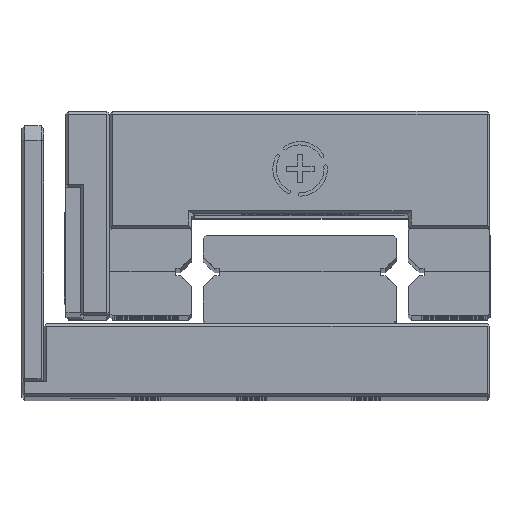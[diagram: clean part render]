
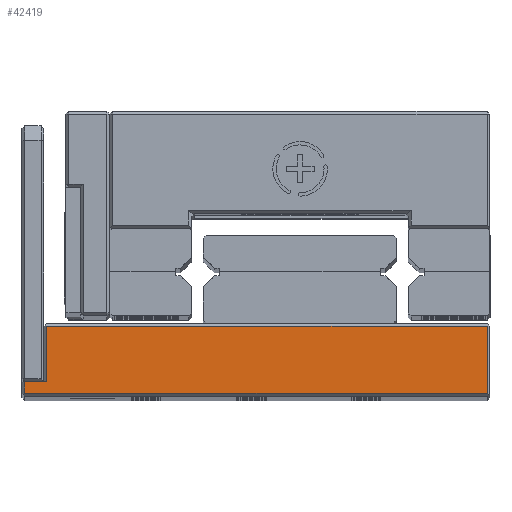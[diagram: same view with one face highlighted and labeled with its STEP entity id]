
A CAD part, top view. The second image highlights one B-rep face of the part: STEP entity #42419.
In plain terms, the highlighted planar face has unit normal (0, 0, 1).
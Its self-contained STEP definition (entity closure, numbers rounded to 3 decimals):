
#324 = VECTOR ( 'NONE', #1304, 1000. ) ;
#1304 = DIRECTION ( 'NONE',  ( 0., -1., 0. ) ) ;
#2812 = ORIENTED_EDGE ( 'NONE', *, *, #30871, .T. ) ;
#4610 = LINE ( 'NONE', #11295, #18612 ) ;
#6292 = DIRECTION ( 'NONE',  ( 1., 0., 0. ) ) ;
#8009 = VECTOR ( 'NONE', #72707, 1000. ) ;
#8429 = CARTESIAN_POINT ( 'NONE',  ( -25.8, -7., 180. ) ) ;
#10507 = VERTEX_POINT ( 'NONE', #57451 ) ;
#11295 = CARTESIAN_POINT ( 'NONE',  ( -25.8, -3., 180. ) ) ;
#18612 = VECTOR ( 'NONE', #75284, 1000. ) ;
#18685 = PLANE ( 'NONE',  #50160 ) ;
#19220 = LINE ( 'NONE', #38027, #42454 ) ;
#20166 = VERTEX_POINT ( 'NONE', #31134 ) ;
#21256 = LINE ( 'NONE', #46766, #8009 ) ;
#21794 = VERTEX_POINT ( 'NONE', #8429 ) ;
#25793 = CARTESIAN_POINT ( 'NONE',  ( -7., -3., 180. ) ) ;
#28720 = VERTEX_POINT ( 'NONE', #62424 ) ;
#30871 = EDGE_CURVE ( 'NONE', #67424, #28720, #19220, .T. ) ;
#31134 = CARTESIAN_POINT ( 'NONE',  ( 5.8, -3.2, 180. ) ) ;
#32461 = FACE_OUTER_BOUND ( 'NONE', #41267, .T. ) ;
#32861 = EDGE_CURVE ( 'NONE', #10507, #67171, #51904, .T. ) ;
#34833 = ORIENTED_EDGE ( 'NONE', *, *, #32861, .T. ) ;
#37790 = EDGE_CURVE ( 'NONE', #21794, #67424, #4610, .T. ) ;
#38027 = CARTESIAN_POINT ( 'NONE',  ( -7., -7.8, 180. ) ) ;
#38317 = DIRECTION ( 'NONE',  ( 0., 0., 1. ) ) ;
#38489 = ORIENTED_EDGE ( 'NONE', *, *, #37790, .T. ) ;
#39655 = CARTESIAN_POINT ( 'NONE',  ( -24.5, -3.2, 180. ) ) ;
#40243 = VECTOR ( 'NONE', #6292, 1000. ) ;
#41267 = EDGE_LOOP ( 'NONE', ( #2812, #50587, #57201, #34833, #52900, #38489 ) ) ;
#42419 = ADVANCED_FACE ( 'NONE', ( #32461 ), #18685, .T. ) ;
#42454 = VECTOR ( 'NONE', #63948, 1000. ) ;
#43391 = CARTESIAN_POINT ( 'NONE',  ( -24.3, -7., 180. ) ) ;
#46766 = CARTESIAN_POINT ( 'NONE',  ( 5.8, -3.2, 180. ) ) ;
#47197 = DIRECTION ( 'NONE',  ( -1., 0., 0. ) ) ;
#50160 = AXIS2_PLACEMENT_3D ( 'NONE', #25793, #38317, #75985 ) ;
#50587 = ORIENTED_EDGE ( 'NONE', *, *, #72019, .T. ) ;
#51904 = LINE ( 'NONE', #77418, #324 ) ;
#52900 = ORIENTED_EDGE ( 'NONE', *, *, #54886, .F. ) ;
#53451 = VECTOR ( 'NONE', #47197, 1000. ) ;
#54886 = EDGE_CURVE ( 'NONE', #21794, #67171, #57290, .T. ) ;
#55761 = CARTESIAN_POINT ( 'NONE',  ( -25.8, -7.8, 180. ) ) ;
#57201 = ORIENTED_EDGE ( 'NONE', *, *, #72539, .T. ) ;
#57290 = LINE ( 'NONE', #63571, #40243 ) ;
#57451 = CARTESIAN_POINT ( 'NONE',  ( -24.3, -3.2, 180. ) ) ;
#62424 = CARTESIAN_POINT ( 'NONE',  ( 5.8, -7.8, 180. ) ) ;
#63571 = CARTESIAN_POINT ( 'NONE',  ( -26., -7., 180. ) ) ;
#63948 = DIRECTION ( 'NONE',  ( 1., 0., 0. ) ) ;
#67171 = VERTEX_POINT ( 'NONE', #43391 ) ;
#67424 = VERTEX_POINT ( 'NONE', #55761 ) ;
#71461 = LINE ( 'NONE', #39655, #53451 ) ;
#72019 = EDGE_CURVE ( 'NONE', #28720, #20166, #21256, .T. ) ;
#72539 = EDGE_CURVE ( 'NONE', #20166, #10507, #71461, .T. ) ;
#72707 = DIRECTION ( 'NONE',  ( 0., 1., 0. ) ) ;
#75284 = DIRECTION ( 'NONE',  ( 0., -1., 0. ) ) ;
#75985 = DIRECTION ( 'NONE',  ( -1., 0., 0. ) ) ;
#77418 = CARTESIAN_POINT ( 'NONE',  ( -24.3, -3., 180. ) ) ;
